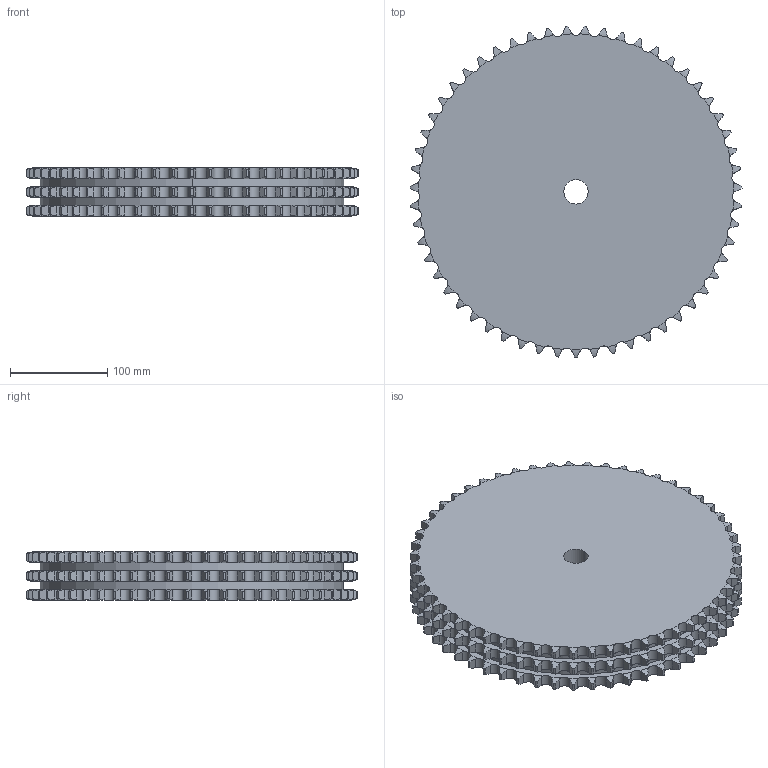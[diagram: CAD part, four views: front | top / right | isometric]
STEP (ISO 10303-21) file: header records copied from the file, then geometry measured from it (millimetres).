
FILE_DESCRIPTION((''),'2;1');
FILE_NAME('500-403-0055_PRT','2021-02-12T',('Brieden'),('Brieden'),'PRO/ENGINEER BY PARAMETRIC TECHNOLOGY CORPORATION, 2010160','PRO/ENGINEER BY PARAMETRIC TECHNOLOGY CORPORATION, 2010160','');
FILE_SCHEMA(('AUTOMOTIVE_DESIGN { 1 0 10303 214 1 1 1 1 }'));
Length unit declared in the file: millimetre
Products named in the file (1): 500-403-0055_PRT
Bounding box: 341.14 x 341 x 49.8 mm (x, y, z)
Volume: 4058794.6 mm3; surface area: 273695.5 mm2
Topology: 1 solids, 1 shells, 1002 faces, 2988 edges, 1992 vertices
Faces by surface type: cylinder 666, torus 330, plane 6
Entity records: 49518 total; most frequent: CARTESIAN_POINT 15171, ORIENTED_EDGE 5976, DIRECTION 4674, PRESENTATION_STYLE_ASSIGNMENT 2989, STYLED_ITEM 2989, CURVE_STYLE 2988, EDGE_CURVE 2988, AXIS2_PLACEMENT_3D 2004
